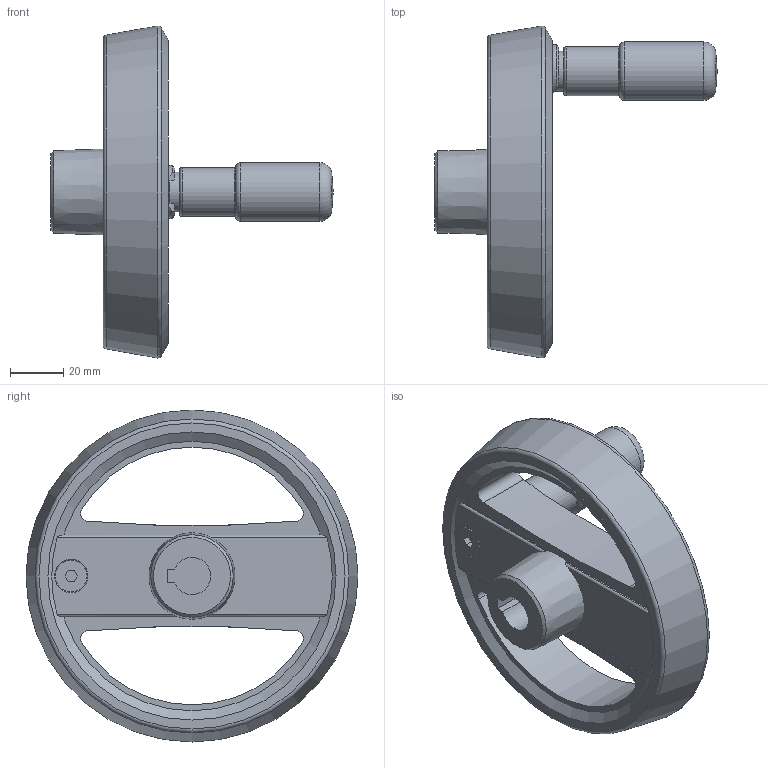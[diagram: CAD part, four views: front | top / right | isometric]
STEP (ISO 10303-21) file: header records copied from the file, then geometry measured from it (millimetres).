
FILE_DESCRIPTION( ( 'STEP AP203' ), '1' );
FILE_NAME( 'C:/Temp/Ganter_Step_05_03_2020/data/1_3/gn_924_7/gn_924_7_k/Handwheel with retractable handle GN 924.7-125-K14-R-SW (activated).stp', '2020-03-05T10:41:53', ( 'License CC BY-ND 4.0' ), ( 'CADENAS' ), ' ', 'PARTsolutions', ' ' );
FILE_SCHEMA( ( 'CONFIG_CONTROL_DESIGN' ) );
Length unit declared in the file: millimetre
Products named in the file (3): Handwheel with retractable handle GN 924.7-125-K14-R-SW (activated); _Umleggriff-Handrad GN 924.7-125-K14-R-SW-1; _Umleggriff-Handrad GN 924.7-125-K14-R-SW (90)-2
Assembly tree (2 placements, depth 2):
  Handwheel with retractable handle GN 924.7-125-K14-R-SW (activated)
    _Umleggriff-Handrad GN 924.7-125-K14-R-SW-1
    _Umleggriff-Handrad GN 924.7-125-K14-R-SW (90)-2
Bounding box: 106.3 x 125 x 125 mm (x, y, z)
Volume: 165903.4 mm3; surface area: 51799.7 mm2
Topology: 2 solids, 2 shells, 106 faces, 267 edges, 171 vertices
Faces by surface type: plane 46, cylinder 39, cone 11, torus 8, sphere 2
Full cylindrical faces by diameter (mm): 4 x4, 5 x1, 8 x1, 12 x1, 15 x1, 18.5 x1, 20 x1, 22 x1, 25 x1, 26.6 x1
Entity records: 3484 total; most frequent: CARTESIAN_POINT 988, DIRECTION 494, ORIENTED_EDGE 452, EDGE_CURVE 226, AXIS2_PLACEMENT_3D 203, VERTEX_POINT 165, EDGE_LOOP 158, FACE_OUTER_BOUND 126
